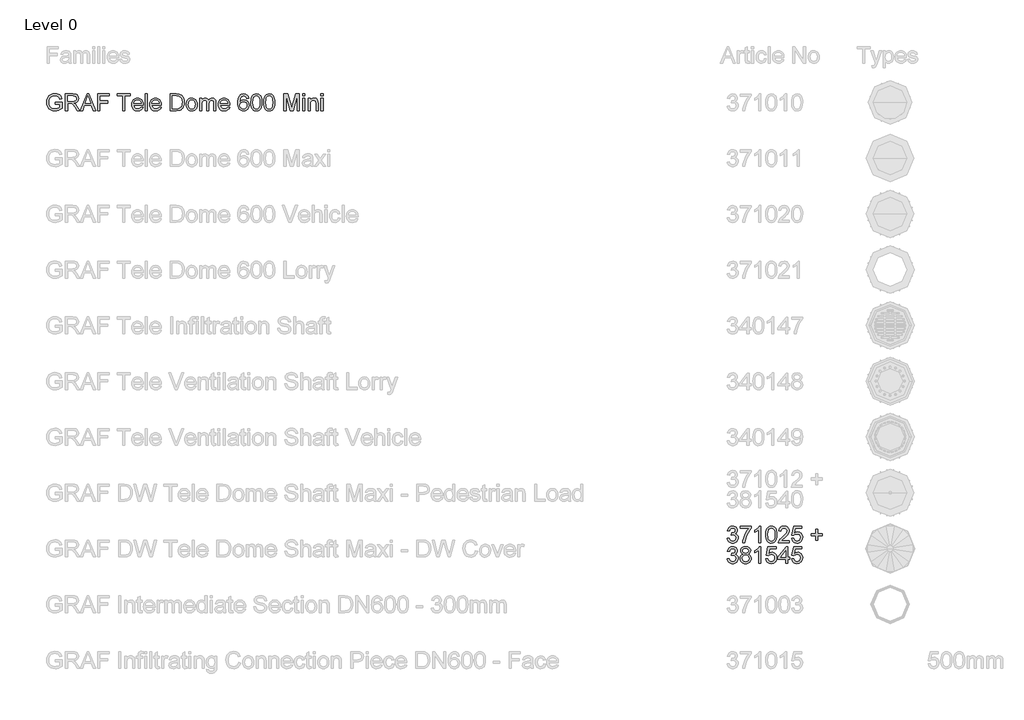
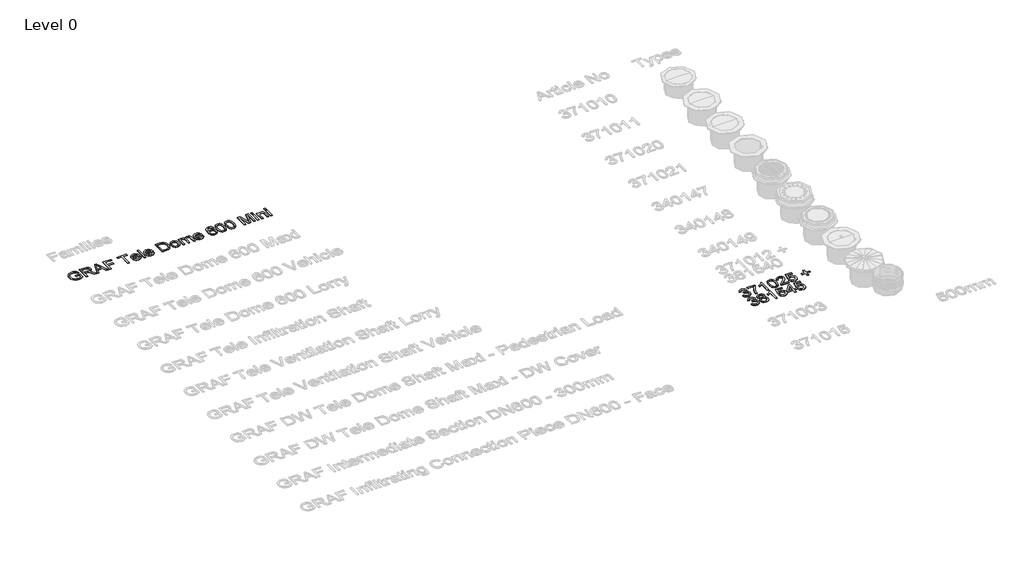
# One storey, part 22 of 25: 2 proxies.
"""IFC4 building model written with IfcOpenShell, lengths in millimetres."""

from ifc_helpers import new_model, si_unit, origin, origin_with_axes, place, context, project, spatial, polyline, outline, extrude, element, save

model = new_model("IFC4")

# Units and contexts
model_context = context("Model", 3, world=origin())
ifc_project = project(units=[si_unit("LENGTHUNIT", "METRE", prefix="MILLI")], contexts=[model_context])

# Site, building, storey
site = spatial("IfcSite", under=ifc_project)
building = spatial("IfcBuilding", under=site)
storey = spatial("IfcBuildingStorey", under=building, Name="Level 0", Elevation=0.0)

# Proxies
placement = place(None, origin())
element("IfcBuildingElementProxy", 1, Name="300mm Arial", ObjectType="300mm Arial", at=placement, inside=storey, context=model_context, shape_type="SweptSolid", body=[
    extrude(outline(polyline([(-15240.9940387, 7916.7454403), (-15240.9940387, 7954.4165566), (-15118.5629107, 7954.4165566), (-15118.5629107, 7841.7710897), (-15148.3153671, 7821.0777274), (-15179.0059225, 7806.2336889), (-15210.5610007, 7797.2941564), (-15242.9070251, 7794.3143123), (-15285.1674693, 7799.050793), (-15323.3628175, 7813.260235), (-15355.0926395, 7836.4459978), (-15377.9565055, 7868.1114405), (-15391.7796715, 7906.0952565), (-15396.3873935, 7948.2361391), (-15391.7980656, 7990.6805243), (-15378.0300819, 8030.1634594), (-15355.6536596, 8063.282036), (-15325.2390156, 8086.6333457), (-15288.1932987, 8100.4841028), (-15245.9236575, 8105.1010218), (-15214.8928112, 8102.4246803), (-15186.9889618, 8094.3956557), (-15163.4904994, 8081.5933623), (-15145.6758138, 8064.5972141), (-15132.4964413, 8042.5886738), (-15122.9039183, 8014.7492038), (-15157.6319786, 8004.9635427), (-15165.3850917, 8024.8199734), (-15174.8120678, 8039.8019677), (-15187.2832674, 8051.0959449), (-15204.169051, 8059.8883246), (-15224.3013932, 8065.5445103), (-15246.5122687, 8067.4299055), (-15272.5123287, 8065.3973575), (-15294.7415982, 8059.2997134), (-15313.1173039, 8049.9003284), (-15327.5566722, 8037.9625577), (-15346.9440533, 8008.9366683), (-15355.7732212, 7980.49939), (-15358.7162772, 7949.7812434), (-15355.175413, 7913.7563991), (-15344.5528204, 7884.1143073), (-15327.1703961, 7861.0665003), (-15303.3500369, 7844.8245102), (-15275.4737787, 7835.195199), (-15245.9236575, 7831.9854286), (-15219.831627, 7834.4042527), (-15194.3833899, 7841.6607251), (-15172.2828791, 7851.6579183), (-15156.234027, 7862.298905), (-15156.234027, 7916.7454403), (-15240.9940387, 7916.7454403)])), origin_with_axes(), (0.0, 0.0, 1.0), 10.0),
    extrude(outline(polyline([(-15057.3473467, 7799.0232018), (-15057.3473467, 8100.3921323), (-14927.4850024, 8100.3921323), (-14892.5821982, 8098.3595842), (-14867.1891434, 8092.2619402), (-14848.6294968, 8081.0047511), (-14834.2269167, 8063.4935682), (-14824.9838815, 8041.7793334), (-14821.9028698, 8017.912989), (-14827.0072325, 7988.2249119), (-14842.3203206, 7963.6136065), (-14853.9200997, 7953.5842236), (-14868.3019865, 7945.5689946), (-14905.4120827, 7935.5809984), (-14884.0013506, 7919.467767), (-14853.467145, 7880.6930048), (-14803.2144645, 7799.0232018), (-14846.9924219, 7799.0232018), (-14886.2086426, 7861.4895646), (-14914.5355562, 7902.8395009), (-14934.4379722, 7922.3740348), (-14952.3538253, 7929.5477337), (-14974.2060158, 7930.8721089), (-15019.6762304, 7930.8721089), (-15019.6762304, 7799.0232018), (-15057.3473467, 7799.0232018)]), holes=[polyline([(-15019.6762304, 7968.5432252), (-14935.3576771, 7968.5432252), (-14911.1418448, 7969.8767974), (-14892.3522719, 7973.8775141), (-14878.2072092, 7980.8120897), (-14867.9249074, 7990.9472387), (-14861.6617165, 8003.2069062), (-14859.5739861, 8016.5150374), (-14863.5563087, 8034.890743), (-14875.5032765, 8049.6979933), (-14896.058683, 8059.4652603), (-14925.8663217, 8062.721016), (-15019.6762304, 8062.721016), (-15019.6762304, 7968.5432252)])]), origin_with_axes(), (0.0, 0.0, 1.0), 10.0),
    extrude(outline(polyline([(-14791.0743586, 7799.0232018), (-14670.7769462, 8100.3921323), (-14638.6976362, 8100.3921323), (-14518.4002238, 7799.0232018), (-14558.2050557, 7799.0232018), (-14592.7123868, 7893.2009926), (-14716.835772, 7893.2009926), (-14751.2695268, 7799.0232018), (-14791.0743586, 7799.0232018)]), holes=[polyline([(-14703.003409, 7930.8721089), (-14606.4711735, 7930.8721089), (-14633.6208647, 8004.9635427), (-14654.7372912, 8062.721016), (-14673.499273, 8011.4382658), (-14703.003409, 7930.8721089)])]), origin_with_axes(), (0.0, 0.0, 1.0), 10.0),
    extrude(outline(polyline([(-14478.1539335, 7799.0232018), (-14478.1539335, 8100.3921323), (-14275.6716834, 8100.3921323), (-14275.6716834, 8062.721016), (-14440.4828172, 8062.721016), (-14440.4828172, 7973.2521147), (-14299.2161311, 7973.2521147), (-14299.2161311, 7935.5809984), (-14440.4828172, 7935.5809984), (-14440.4828172, 7799.0232018), (-14478.1539335, 7799.0232018)])), origin_with_axes(), (0.0, 0.0, 1.0), 10.0),
    extrude(outline(polyline([(-14030.8094274, 7799.0232018), (-14030.8094274, 8062.721016), (-14129.6961077, 8062.721016), (-14129.6961077, 8100.3921323), (-13894.2516308, 8100.3921323), (-13894.2516308, 8062.721016), (-13993.1383111, 8062.721016), (-13993.1383111, 7799.0232018), (-14030.8094274, 7799.0232018)])), origin_with_axes(), (0.0, 0.0, 1.0), 10.0),
    extrude(outline(polyline([(-13701.6286181, 7864.9476554), (-13664.6932658, 7860.2387658), (-13678.001397, 7832.4084929), (-13699.2373851, 7811.6047661), (-13727.9229837, 7798.6369257), (-13763.5799461, 7794.3143123), (-13786.9542484, 7796.1790141), (-13807.7809678, 7801.7731197), (-13826.0601045, 7811.0966291), (-13841.7916583, 7824.1495421), (-13854.4422004, 7840.5685754), (-13863.4783019, 7859.9904455), (-13868.8999628, 7882.4151523), (-13870.7071831, 7907.842696), (-13868.8815687, 7934.1324631), (-13863.4047255, 7957.3044302), (-13854.2766535, 7977.3585975), (-13841.4973527, 7994.2949649), (-13825.8071856, 8007.7502488), (-13807.9465147, 8017.361166), (-13787.9153401, 8023.1277162), (-13765.7136617, 8025.0498997), (-13744.2270539, 8023.1323148), (-13724.7959868, 8017.3795601), (-13707.4204603, 8007.7916356), (-13692.1004744, 7994.3685413), (-13679.5947859, 7977.4689621), (-13670.6621512, 7957.451583), (-13665.3025704, 7934.3164041), (-13663.5160434, 7908.0634252), (-13663.7367726, 7897.9098821), (-13833.0360668, 7897.9098821), (-13826.5153584, 7869.7117272), (-13811.3678173, 7848.9815768), (-13789.5064297, 7836.2344656), (-13762.8441821, 7831.9854286), (-13742.7946134, 7833.9535973), (-13725.9088298, 7839.8581033), (-13712.1868314, 7850.0668287), (-13701.6286181, 7864.9476554)]), holes=[polyline([(-13833.0360668, 7935.5809984), (-13701.1871597, 7935.5809984), (-13706.2823254, 7955.4834144), (-13716.2703215, 7969.7204476), (-13738.2328766, 7982.9641994), (-13765.8608145, 7987.3787834), (-13791.2538692, 7983.8563132), (-13812.2507341, 7973.2889029), (-13826.8464522, 7956.8169866), (-13833.0360668, 7935.5809984)])]), origin_with_axes(), (0.0, 0.0, 1.0), 10.0),
    extrude(outline(polyline([(-13625.8449271, 7799.0232018), (-13625.8449271, 8100.3921323), (-13588.1738108, 8100.3921323), (-13588.1738108, 7799.0232018), (-13625.8449271, 7799.0232018)])), origin_with_axes(), (0.0, 0.0, 1.0), 10.0),
    extrude(outline(polyline([(-13376.71524, 7864.9476554), (-13339.7798877, 7860.2387658), (-13353.0880188, 7832.4084929), (-13374.324007, 7811.6047661), (-13403.0096056, 7798.6369257), (-13438.666568, 7794.3143123), (-13462.0408702, 7796.1790141), (-13482.8675897, 7801.7731197), (-13501.1467263, 7811.0966291), (-13516.8782801, 7824.1495421), (-13529.5288222, 7840.5685754), (-13538.5649238, 7859.9904455), (-13543.9865847, 7882.4151523), (-13545.793805, 7907.842696), (-13543.9681906, 7934.1324631), (-13538.4913474, 7957.3044302), (-13529.3632754, 7977.3585975), (-13516.5839745, 7994.2949649), (-13500.8938074, 8007.7502488), (-13483.0331366, 8017.361166), (-13463.0019619, 8023.1277162), (-13440.8002835, 8025.0498997), (-13419.3136758, 8023.1323148), (-13399.8826086, 8017.3795601), (-13382.5070821, 8007.7916356), (-13367.1870963, 7994.3685413), (-13354.6814077, 7977.4689621), (-13345.748773, 7957.451583), (-13340.3891922, 7934.3164041), (-13338.6026653, 7908.0634252), (-13338.8233945, 7897.9098821), (-13508.1226887, 7897.9098821), (-13501.6019803, 7869.7117272), (-13486.4544391, 7848.9815768), (-13464.5930516, 7836.2344656), (-13437.930804, 7831.9854286), (-13417.8812352, 7833.9535973), (-13400.9954517, 7839.8581033), (-13387.2734532, 7850.0668287), (-13376.71524, 7864.9476554)]), holes=[polyline([(-13508.1226887, 7935.5809984), (-13376.2737816, 7935.5809984), (-13381.3689472, 7955.4834144), (-13391.3569434, 7969.7204476), (-13413.3194985, 7982.9641994), (-13440.9474363, 7987.3787834), (-13466.3404911, 7983.8563132), (-13487.3373559, 7973.2889029), (-13501.9330741, 7956.8169866), (-13508.1226887, 7935.5809984)])]), origin_with_axes(), (0.0, 0.0, 1.0), 10.0),
    extrude(outline(polyline([(-13178.500421, 7799.0232018), (-13178.500421, 8100.3921323), (-13074.5369691, 8100.3921323), (-13020.7526214, 8096.0511247), (-12996.7299272, 8087.6818093), (-12976.4596292, 8074.4932398), (-12955.6191142, 8051.5374033), (-12940.7750757, 8022.9897605), (-12931.8907255, 7989.4021343), (-12928.9292754, 7951.3263478), (-12930.9342323, 7918.9803234), (-12936.9491029, 7890.515454), (-12946.1093646, 7866.2812276), (-12957.5504947, 7846.627132), (-12970.7206701, 7831.1117089), (-12985.0680679, 7819.2934998), (-13001.5399842, 7810.5287112), (-13021.0837152, 7804.1735498), (-13069.533774, 7799.0232018), (-13178.500421, 7799.0232018)]), holes=[polyline([(-13140.8293047, 7836.6943181), (-13074.1690871, 7836.6943181), (-13046.5963316, 7838.0554815), (-13025.6822402, 7842.1389717), (-13009.9001026, 7848.7056653), (-12997.7232085, 7857.5164391), (-12984.6358066, 7873.8228085), (-12974.8041602, 7894.930038), (-12968.6513339, 7920.930098), (-12966.6003918, 7951.914959), (-12970.6195026, 7992.9705897), (-12982.6768349, 8023.2840661), (-13000.4915206, 8044.106187), (-13021.782691, 8056.6877512), (-13043.4509405, 8061.2126998), (-13075.1991567, 8062.721016), (-13140.8293047, 8062.721016), (-13140.8293047, 7836.6943181)])]), origin_with_axes(), (0.0, 0.0, 1.0), 10.0),
    extrude(outline(polyline([(-12891.2581591, 7909.682106), (-12889.2210126, 7938.3447119), (-12883.1095729, 7963.0433894), (-12872.9238402, 7983.7781383), (-12858.6638144, 8000.5489588), (-12844.3072195, 8011.2681204), (-12828.4607026, 8018.9246644), (-12811.1242635, 8023.5185909), (-12792.2979024, 8025.0498997), (-12771.514869, 8023.1851978), (-12752.7229968, 8017.5910922), (-12735.9222859, 8008.2675829), (-12721.1127364, 7995.2146698), (-12709.0255136, 7978.8738115), (-12700.391783, 7959.6864662), (-12695.2115447, 7937.6526339), (-12693.4847985, 7912.7723147), (-12696.5382191, 7874.7149223), (-12705.6984808, 7845.7442152), (-12720.6988691, 7824.0483745), (-12741.2726697, 7807.8155815), (-12765.7092312, 7797.6896296), (-12792.2979024, 7794.3143123), (-12813.3844386, 7796.1721164), (-12832.3510547, 7801.7455286), (-12849.1977508, 7811.034549), (-12863.9245269, 7824.0391775), (-12875.882991, 7840.538685), (-12884.4247511, 7860.3123422), (-12889.5498071, 7883.3601492), (-12891.2581591, 7909.682106)]), holes=[polyline([(-12853.5870428, 7909.7556824), (-12849.2276412, 7875.6622185), (-12836.1494363, 7851.3728097), (-12816.4677495, 7836.8322739), (-12792.2979024, 7831.9854286), (-12768.23842, 7836.859865), (-12748.5935214, 7851.4831743), (-12735.5153165, 7876.0944798), (-12731.1559148, 7910.9329048), (-12735.5429076, 7944.0330873), (-12748.703886, 7967.9914022), (-12768.3763757, 7982.5319381), (-12792.2979024, 7987.3787834), (-12816.4677495, 7982.5503322), (-12836.1494363, 7968.0649786), (-12849.2276412, 7943.8307522), (-12853.5870428, 7909.7556824)])]), origin_with_axes(), (0.0, 0.0, 1.0), 10.0),
    extrude(outline(polyline([(-12651.1047927, 7799.0232018), (-12651.1047927, 8020.3410101), (-12613.4336764, 8020.3410101), (-12613.4336764, 7983.9206926), (-12602.1029109, 8000.6501263), (-12587.5347839, 8013.7559224), (-12570.2259361, 8022.2264053), (-12550.673008, 8025.0498997), (-12529.7221284, 8022.171223), (-12512.9283153, 8013.5351932), (-12500.3835393, 7999.7120272), (-12492.1797708, 7981.2719422), (-12478.4485753, 8000.4247986), (-12462.7859994, 8014.1054103), (-12445.1920429, 8022.3137773), (-12425.666706, 8025.0498997), (-12397.3489895, 8020.49736), (-12376.4073069, 8006.8397409), (-12363.4670577, 7983.7091605), (-12359.1536413, 7950.7377366), (-12359.1536413, 7799.0232018), (-12396.8247576, 7799.0232018), (-12396.8247576, 7934.5509288), (-12400.3196366, 7966.0048394), (-12405.2308612, 7974.6776575), (-12412.9747772, 7981.4926714), (-12422.9351822, 7985.9072554), (-12434.4958739, 7987.3787834), (-12454.9041276, 7983.6079929), (-12471.5415908, 7972.2956216), (-12482.6056419, 7952.6691171), (-12486.2936589, 7923.9559274), (-12486.2936589, 7799.0232018), (-12523.9647752, 7799.0232018), (-12523.9647752, 7938.7447836), (-12526.144476, 7960.0451511), (-12532.6835784, 7975.2386775), (-12544.1890878, 7984.3437569), (-12561.2680095, 7987.3787834), (-12575.7809542, 7985.3554324), (-12589.1534647, 7979.2853795), (-12600.1899246, 7969.3157774), (-12607.6947173, 7955.593779), (-12611.9989366, 7936.5558857), (-12613.4336764, 7910.6385992), (-12613.4336764, 7799.0232018), (-12651.1047927, 7799.0232018)])), origin_with_axes(), (0.0, 0.0, 1.0), 10.0),
    extrude(outline(polyline([(-12147.6950705, 7864.9476554), (-12110.7597182, 7860.2387658), (-12124.0678494, 7832.4084929), (-12145.3038375, 7811.6047661), (-12173.9894361, 7798.6369257), (-12209.6463985, 7794.3143123), (-12233.0207007, 7796.1790141), (-12253.8474202, 7801.7731197), (-12272.1265568, 7811.0966291), (-12287.8581107, 7824.1495421), (-12300.5086528, 7840.5685754), (-12309.5447543, 7859.9904455), (-12314.9664152, 7882.4151523), (-12316.7736355, 7907.842696), (-12314.9480211, 7934.1324631), (-12309.4711779, 7957.3044302), (-12300.3431059, 7977.3585975), (-12287.5638051, 7994.2949649), (-12271.873638, 8007.7502488), (-12254.0129671, 8017.361166), (-12233.9817925, 8023.1277162), (-12211.7801141, 8025.0498997), (-12190.2935063, 8023.1323148), (-12170.8624391, 8017.3795601), (-12153.4869127, 8007.7916356), (-12138.1669268, 7994.3685413), (-12125.6612382, 7977.4689621), (-12116.7286035, 7957.451583), (-12111.3690227, 7934.3164041), (-12109.5824958, 7908.0634252), (-12109.803225, 7897.9098821), (-12279.1025192, 7897.9098821), (-12272.5818108, 7869.7117272), (-12257.4342697, 7848.9815768), (-12235.5728821, 7836.2344656), (-12208.9106345, 7831.9854286), (-12188.8610658, 7833.9535973), (-12171.9752822, 7839.8581033), (-12158.2532838, 7850.0668287), (-12147.6950705, 7864.9476554)]), holes=[polyline([(-12279.1025192, 7935.5809984), (-12147.2536121, 7935.5809984), (-12152.3487777, 7955.4834144), (-12162.3367739, 7969.7204476), (-12184.299329, 7982.9641994), (-12211.9272668, 7987.3787834), (-12237.3203216, 7983.8563132), (-12258.3171864, 7973.2889029), (-12272.9129046, 7956.8169866), (-12279.1025192, 7935.5809984)])]), origin_with_axes(), (0.0, 0.0, 1.0), 10.0),
    extrude(outline(polyline([(-11770.542449, 8020.3410101), (-11808.2135653, 8015.6321206), (-11814.2836183, 8034.3021318), (-11822.4873868, 8047.049243), (-11839.5755054, 8058.8030727), (-11860.2320795, 8062.721016), (-11877.7432624, 8060.4401476), (-11894.2243758, 8053.5975425), (-11908.3786356, 8039.1857653), (-11919.9393273, 8019.3477287), (-11927.7476226, 7991.2875296), (-11930.6446933, 7952.2092646), (-11915.5339404, 7969.8400092), (-11897.4249492, 7982.2652236), (-11877.3293952, 7989.6320606), (-11856.2589539, 7992.0876729), (-11838.1591597, 7990.4092113), (-11821.4573172, 7985.3738265), (-11806.1534262, 7976.9815185), (-11792.2474868, 7965.2322872), (-11780.6913936, 7950.8251086), (-11772.4370413, 7934.4589583), (-11767.48443, 7916.1338365), (-11765.8335595, 7895.849743), (-11768.9421624, 7868.8747957), (-11778.2679709, 7843.868017), (-11793.038433, 7822.65962), (-11812.4809965, 7807.0798175), (-11835.7127445, 7797.5056886), (-11861.8507602, 7794.3143123), (-11884.3076568, 7796.4296338), (-11904.589451, 7802.7755982), (-11922.696143, 7813.3522055), (-11938.6277326, 7828.1594558), (-11951.6162663, 7847.8227485), (-11960.8937904, 7872.9674829), (-11966.4603048, 7903.593659), (-11968.3158096, 7939.7012768), (-11966.2556705, 7980.1820918), (-11960.075253, 8014.7308097), (-11949.7745571, 8043.3474304), (-11935.3535829, 8066.0319539), (-11919.7231966, 8081.0645319), (-11901.6004098, 8091.8020877), (-11880.9852225, 8098.2446211), (-11857.8776347, 8100.3921323), (-11824.8234374, 8095.0762374), (-11798.3543279, 8079.1285529), (-11779.8130753, 8053.7998776), (-11770.542449, 8020.3410101)]), holes=[polyline([(-11930.6446933, 7896.4383541), (-11928.4649925, 7879.7457086), (-11921.9258901, 7863.8072212), (-11911.772347, 7850.1036169), (-11898.7493244, 7840.1156207), (-11883.0315661, 7834.0179766), (-11864.7938162, 7831.9854286), (-11839.9341904, 7836.1976774), (-11820.3904594, 7848.834424), (-11807.7261217, 7868.7000517), (-11803.5046758, 7894.5989442), (-11807.6709394, 7919.45857), (-11820.1697302, 7938.4136898), (-11840.044555, 7950.4158399), (-11866.3389206, 7954.4165566), (-11891.1617582, 7950.4158399), (-11911.9194998, 7938.4136898), (-11925.9633949, 7919.9184225), (-11930.6446933, 7896.4383541)])]), origin_with_axes(), (0.0, 0.0, 1.0), 10.0),
    extrude(outline(polyline([(-11732.8713327, 7947.2796459), (-11730.1030207, 7995.5181725), (-11721.7980847, 8033.9894321), (-11708.0392981, 8063.282036), (-11688.9094343, 8083.9845953), (-11664.2705377, 8096.290248), (-11633.9846524, 8100.3921323), (-11610.7712985, 8097.9641111), (-11589.9859658, 8090.6800476), (-11572.6035415, 8078.8250503), (-11559.598913, 8062.6842278), (-11549.7764637, 8042.3955357), (-11541.9405772, 8018.0969299), (-11536.8086234, 7987.2408276), (-11535.0979721, 7947.2796459), (-11537.838693, 7899.3170308), (-11546.0608556, 7860.9377416), (-11559.7368687, 7831.6175466), (-11578.8391413, 7810.8322139), (-11603.5332203, 7798.4437877), (-11633.9846524, 7794.3143123), (-11654.733197, 7796.107737), (-11673.1272967, 7801.4880112), (-11689.1669517, 7810.4551348), (-11702.8521619, 7823.0091079), (-11715.9855492, 7845.7028285), (-11725.36654, 7873.9791583), (-11730.9951346, 7907.8380975), (-11732.8713327, 7947.2796459)]), holes=[polyline([(-11695.2002164, 7947.3532223), (-11690.7856325, 7888.0966299), (-11685.2674026, 7867.8286312), (-11677.5418807, 7853.8008309), (-11657.8234057, 7837.4392792), (-11633.9846524, 7831.9854286), (-11610.1458991, 7837.4576733), (-11590.4274242, 7853.8744073), (-11582.7019023, 7867.9252003), (-11577.1836724, 7888.1886004), (-11572.7690884, 7947.3532223), (-11577.0365196, 8005.2762424), (-11582.3708085, 8025.4775625), (-11589.838813, 8039.8387559), (-11609.5204997, 8057.0004509), (-11634.4261108, 8062.721016), (-11658.0073467, 8057.6810326), (-11676.9532695, 8042.5610826), (-11684.9363088, 8026.9260978), (-11690.6384797, 8005.8464595), (-11695.2002164, 7947.3532223)])]), origin_with_axes(), (0.0, 0.0, 1.0), 10.0),
    extrude(outline(polyline([(-11502.1357454, 7947.2796459), (-11499.3674333, 7995.5181725), (-11491.0624973, 8033.9894321), (-11477.3037107, 8063.282036), (-11458.1738469, 8083.9845953), (-11433.5349503, 8096.290248), (-11403.2490651, 8100.3921323), (-11380.0357112, 8097.9641111), (-11359.2503784, 8090.6800476), (-11341.8679542, 8078.8250503), (-11328.8633256, 8062.6842278), (-11319.0408764, 8042.3955357), (-11311.2049899, 8018.0969299), (-11306.073036, 7987.2408276), (-11304.3623847, 7947.2796459), (-11307.1031056, 7899.3170308), (-11315.3252682, 7860.9377416), (-11329.0012814, 7831.6175466), (-11348.103554, 7810.8322139), (-11372.7976329, 7798.4437877), (-11403.2490651, 7794.3143123), (-11423.9976096, 7796.107737), (-11442.3917093, 7801.4880112), (-11458.4313643, 7810.4551348), (-11472.1165745, 7823.0091079), (-11485.2499618, 7845.7028285), (-11494.6309527, 7873.9791583), (-11500.2595472, 7907.8380975), (-11502.1357454, 7947.2796459)]), holes=[polyline([(-11464.464629, 7947.3532223), (-11460.0500451, 7888.0966299), (-11454.5318152, 7867.8286312), (-11446.8062933, 7853.8008309), (-11427.0878183, 7837.4392792), (-11403.2490651, 7831.9854286), (-11379.4103118, 7837.4576733), (-11359.6918368, 7853.8744073), (-11351.9663149, 7867.9252003), (-11346.448085, 7888.1886004), (-11342.0335011, 7947.3532223), (-11346.3009322, 8005.2762424), (-11351.6352211, 8025.4775625), (-11359.1032256, 8039.8387559), (-11378.7849124, 8057.0004509), (-11403.6905234, 8062.721016), (-11427.2717593, 8057.6810326), (-11446.2176821, 8042.5610826), (-11454.2007214, 8026.9260978), (-11459.9028923, 8005.8464595), (-11464.464629, 7947.3532223)])]), origin_with_axes(), (0.0, 0.0, 1.0), 10.0),
    extrude(outline(polyline([(-11139.5512509, 7799.0232018), (-11139.5512509, 8100.3921323), (-11074.7304434, 8100.3921323), (-11013.073421, 7887.9770683), (-11000.6390095, 7843.6104996), (-10987.1745285, 7891.6558882), (-10926.5475757, 8100.3921323), (-10861.7267682, 8100.3921323), (-10861.7267682, 7799.0232018), (-10899.3978845, 7799.0232018), (-10899.3978845, 8062.721016), (-10975.1079991, 7799.0232018), (-11026.17002, 7799.0232018), (-11101.8801346, 8062.721016), (-11101.8801346, 7799.0232018), (-11139.5512509, 7799.0232018)])), origin_with_axes(), (0.0, 0.0, 1.0), 10.0),
    extrude(outline(polyline([(-10800.5112042, 8062.721016), (-10800.5112042, 8100.3921323), (-10762.8400878, 8100.3921323), (-10762.8400878, 8062.721016), (-10800.5112042, 8062.721016)])), origin_with_axes(), (0.0, 0.0, 1.0), 10.0),
    extrude(outline(polyline([(-10800.5112042, 7799.0232018), (-10800.5112042, 8020.3410101), (-10762.8400878, 8020.3410101), (-10762.8400878, 7799.0232018), (-10800.5112042, 7799.0232018)])), origin_with_axes(), (0.0, 0.0, 1.0), 10.0),
    extrude(outline(polyline([(-10706.3334134, 7799.0232018), (-10706.3334134, 8020.3410101), (-10668.6622971, 8020.3410101), (-10668.6622971, 7989.4389225), (-10655.5748951, 8005.018725), (-10639.8571369, 8016.1471554), (-10621.5090224, 8022.8242136), (-10600.5305516, 8025.0498997), (-10581.9617079, 8023.2564749), (-10564.9563626, 8017.8762008), (-10550.7745117, 8009.5804618), (-10540.676151, 7999.0406426), (-10529.3821737, 7971.3391284), (-10527.3956109, 7934.9188108), (-10527.3956109, 7799.0232018), (-10565.0667272, 7799.0232018), (-10565.0667272, 7929.8420393), (-10569.4077348, 7963.1721481), (-10575.4134084, 7973.0957649), (-10584.748414, 7980.7936956), (-10596.7137759, 7985.7325114), (-10610.6105182, 7987.3787834), (-10632.6742409, 7983.6815693), (-10651.4822079, 7972.5899271), (-10658.9984969, 7963.5354315), (-10664.3672748, 7951.1608009), (-10668.6622971, 7916.4511347), (-10668.6622971, 7799.0232018), (-10706.3334134, 7799.0232018)])), origin_with_axes(), (0.0, 0.0, 1.0), 10.0),
    extrude(outline(polyline([(-10475.597826, 8062.721016), (-10475.597826, 8100.3921323), (-10437.9267097, 8100.3921323), (-10437.9267097, 8062.721016), (-10475.597826, 8062.721016)])), origin_with_axes(), (0.0, 0.0, 1.0), 10.0),
    extrude(outline(polyline([(-10475.597826, 7799.0232018), (-10475.597826, 8020.3410101), (-10437.9267097, 8020.3410101), (-10437.9267097, 7799.0232018), (-10475.597826, 7799.0232018)])), origin_with_axes(), (0.0, 0.0, 1.0), 10.0),
])
element("IfcBuildingElementProxy", 2, Name="300mm Arial", ObjectType="300mm Arial", at=placement, inside=storey, context=model_context, shape_type="SweptSolid", body=[
    extrude(outline(polyline([(-3192.0538732, 129.074324), (-3154.3827568, 133.7832135), (-3145.9490621, 110.1100071), (-3133.5974241, 94.1255344), (-3116.7208376, 85.020455), (-3094.7122972, 81.9854286), (-3068.8869812, 86.1608892), (-3048.947777, 98.6872712), (-3036.2006659, 117.3756765), (-3031.9516289, 140.0372074), (-3036.1638777, 161.5491071), (-3048.8006242, 178.9959107), (-3067.930488, 190.5566024), (-3091.6220885, 194.4101663), (-3118.0360157, 190.289888), (-3113.842161, 227.9610043), (-3107.8088963, 227.5195459), (-3085.2393359, 230.2234785), (-3065.0610084, 238.3352765), (-3050.8239752, 252.057275), (-3046.0782975, 271.5918089), (-3049.5179941, 287.8613901), (-3059.8370841, 301.0591567), (-3075.5824335, 309.8055512), (-3095.3009084, 312.721016), (-3115.0561716, 309.77796), (-3131.2061912, 300.9487921), (-3142.9968091, 286.2335123), (-3149.6738673, 265.6321206), (-3187.3449836, 270.3410101), (-3176.2533415, 304.1677596), (-3156.5164724, 329.4228585), (-3129.513934, 345.1498138), (-3096.6252836, 350.3921323), (-3072.9428802, 347.8077613), (-3051.1918572, 340.0546482), (-3032.8529397, 327.8225719), (-3019.4068528, 311.801311), (-3011.1570991, 293.3428319), (-3008.4071812, 273.7991009), (-3011.0191433, 255.5889421), (-3018.8550298, 239.0710405), (-3031.8044761, 224.9995542), (-3049.7571174, 214.1286413), (-3026.1758815, 204.6004976), (-3008.7014868, 188.3769016), (-2997.8857561, 166.3407701), (-2994.2805125, 139.3750198), (-2996.0831343, 120.2635502), (-3001.4909997, 102.6603967), (-3010.5041085, 86.5655594), (-3023.122461, 71.9790383), (-3038.4953298, 59.8757207), (-3055.771988, 51.2304938), (-3074.9524356, 46.0433577), (-3096.0366724, 44.3143123), (-3115.0929598, 45.7904388), (-3132.4569899, 50.2188183), (-3148.1287629, 57.5994508), (-3162.1082787, 67.9323364), (-3173.8299188, 80.6104696), (-3182.7280646, 95.0268453), (-3188.802716, 111.1814634), (-3192.0538732, 129.074324)])), origin_with_axes(), (0.0, 0.0, 1.0), 10.0),
    extrude(outline(polyline([(-2961.3182858, 308.0121264), (-2961.3182858, 345.6832427), (-2763.5449252, 345.6832427), (-2763.5449252, 315.2226135), (-2791.7338831, 279.547257), (-2819.6469294, 234.17821), (-2844.267432, 183.2541448), (-2862.5787583, 130.9137339), (-2871.555079, 91.7526956), (-2876.5582741, 49.0232018), (-2914.2293904, 49.0232018), (-2910.1550973, 87.8531464), (-2899.2565932, 134.0039427), (-2881.8281837, 182.923051), (-2858.1641743, 230.0579316), (-2830.5362365, 272.6678637), (-2801.2160415, 308.0121264), (-2961.3182858, 308.0121264)])), origin_with_axes(), (0.0, 0.0, 1.0), 10.0),
    extrude(outline(polyline([(-2589.3160123, 49.0232018), (-2626.9871286, 49.0232018), (-2626.9871286, 283.8790675), (-2662.6716821, 258.4584217), (-2702.3293612, 239.4389225), (-2702.3293612, 275.0498997), (-2672.7424517, 291.1447369), (-2647.1102737, 310.2929948), (-2626.9043551, 330.6552632), (-2613.5962239, 350.3921323), (-2589.3160123, 350.3921323), (-2589.3160123, 49.0232018)])), origin_with_axes(), (0.0, 0.0, 1.0), 10.0),
    extrude(outline(polyline([(-2499.847111, 197.2796459), (-2497.078799, 245.5181725), (-2488.773863, 283.9894321), (-2475.0150764, 313.282036), (-2455.8852126, 333.9845953), (-2431.246316, 346.290248), (-2400.9604307, 350.3921323), (-2377.7470768, 347.9641111), (-2356.9617441, 340.6800476), (-2339.5793198, 328.8250503), (-2326.5746913, 312.6842278), (-2316.752242, 292.3955357), (-2308.9163555, 268.0969299), (-2303.7844017, 237.2408276), (-2302.0737504, 197.2796459), (-2304.8144713, 149.3170308), (-2313.0366339, 110.9377416), (-2326.7126471, 81.6175466), (-2345.8149197, 60.8322139), (-2370.5089986, 48.4437877), (-2400.9604307, 44.3143123), (-2421.7089753, 46.107737), (-2440.103075, 51.4880112), (-2456.14273, 60.4551348), (-2469.8279402, 73.0091079), (-2482.9613275, 95.7028285), (-2492.3423183, 123.9791583), (-2497.9709129, 157.8380975), (-2499.847111, 197.2796459)]), holes=[polyline([(-2462.1759947, 197.3532223), (-2457.7614108, 138.0966299), (-2452.2431809, 117.8286312), (-2444.517659, 103.8008309), (-2424.799184, 87.4392792), (-2400.9604307, 81.9854286), (-2377.1216774, 87.4576733), (-2357.4032025, 103.8744073), (-2349.6776806, 117.9252003), (-2344.1594507, 138.1886004), (-2339.7448667, 197.3532223), (-2344.0122979, 255.2762424), (-2349.3465868, 275.4775625), (-2356.8145913, 289.8387559), (-2376.496278, 307.0004509), (-2401.4018891, 312.721016), (-2424.983125, 307.6810326), (-2443.9290478, 292.5610826), (-2451.9120871, 276.9260978), (-2457.614258, 255.8464595), (-2462.1759947, 197.3532223)])]), origin_with_axes(), (0.0, 0.0, 1.0), 10.0),
    extrude(outline(polyline([(-2076.0470526, 86.6943181), (-2076.0470526, 49.0232018), (-2273.8204132, 49.0232018), (-2269.7737112, 74.9956707), (-2260.4846909, 95.2935598), (-2246.8914511, 114.9844436), (-2227.2281585, 135.5950323), (-2199.7289794, 158.6520364), (-2159.0780189, 194.7596542), (-2134.6874426, 221.4127048), (-2122.4921545, 243.0441661), (-2118.4270584, 264.0870162), (-2122.2622282, 282.9501655), (-2133.7677376, 298.6311355), (-2151.4536645, 309.1985459), (-2173.8300869, 312.721016), (-2197.3285493, 309.2813193), (-2215.5846934, 298.9622293), (-2227.3661143, 282.5730865), (-2231.4404073, 260.923231), (-2269.1115237, 265.6321206), (-2259.9788531, 302.0708322), (-2251.4324945, 316.6067695), (-2240.232787, 328.6870946), (-2226.6372481, 338.1830486), (-2210.903395, 344.9658728), (-2173.0207465, 350.3921323), (-2152.8309228, 348.8838161), (-2134.8621866, 344.3588675), (-2119.1145379, 336.8172866), (-2105.5879768, 326.2590734), (-2094.7239616, 313.465977), (-2086.9639508, 299.2197467), (-2082.3079443, 283.5203826), (-2080.7559421, 266.3678846), (-2082.4298052, 248.3508639), (-2087.4513944, 230.6465428), (-2096.3633358, 212.6387192), (-2109.7082551, 193.7111905), (-2130.9810315, 171.114039), (-2163.6765438, 142.0973466), (-2207.0130429, 105.8609701), (-2224.009191, 86.6943181), (-2076.0470526, 86.6943181)])), origin_with_axes(), (0.0, 0.0, 1.0), 10.0),
    extrude(outline(polyline([(-2038.3759363, 129.074324), (-2000.70482, 133.7832135), (-1993.7886385, 111.1676679), (-1981.722109, 94.971663), (-1964.5604139, 85.2319872), (-1942.3587355, 81.9854286), (-1915.3561971, 86.5011801), (-1895.1226874, 100.0484346), (-1882.4859408, 121.0636935), (-1878.273692, 147.9834585), (-1882.2192264, 173.330528), (-1894.0558296, 192.7179091), (-1913.8754721, 205.0235619), (-1941.7701243, 209.1254461), (-1960.0446625, 207.4883712), (-1974.8427157, 202.5771466), (-1995.9959304, 185.5809984), (-2033.6670467, 190.289888), (-2000.70482, 345.6832427), (-1854.7292443, 345.6832427), (-1854.7292443, 308.0121264), (-1970.2441908, 308.0121264), (-1986.3574222, 225.0179483), (-1959.4468542, 241.3519089), (-1931.2486993, 246.7965624), (-1912.902884, 245.1089038), (-1896.0515894, 240.0459278), (-1880.6948154, 231.6076346), (-1866.8325619, 219.794024), (-1855.3569429, 205.3270645), (-1847.1600722, 188.9287246), (-1842.2419498, 170.5990042), (-1840.6025757, 150.3379033), (-1846.5070817, 112.666787), (-1853.8877142, 95.8729739), (-1864.2205998, 80.4403242), (-1879.8739787, 64.635194), (-1898.1393197, 53.3458153), (-1919.0166229, 46.572188), (-1942.5058883, 44.3143123), (-1979.50562, 50.1176508), (-1995.1842908, 57.3718238), (-2008.9821649, 67.5276662), (-2020.4623824, 80.07934), (-2029.1880835, 94.5210076), (-2038.3759363, 129.074324)])), origin_with_axes(), (0.0, 0.0, 1.0), 10.0),
    extrude(outline(polyline([(-1605.1580988, 96.1120972), (-1605.1580988, 176.1632194), (-1685.2092209, 176.1632194), (-1685.2092209, 213.8343357), (-1605.1580988, 213.8343357), (-1605.1580988, 293.8854578), (-1567.4869825, 293.8854578), (-1567.4869825, 213.8343357), (-1487.4358603, 213.8343357), (-1487.4358603, 176.1632194), (-1567.4869825, 176.1632194), (-1567.4869825, 96.1120972), (-1605.1580988, 96.1120972)])), origin_with_axes(), (0.0, 0.0, 1.0), 10.0),
    extrude(outline(polyline([(-3192.0538732, -236.8501296), (-3154.3827568, -232.14124), (-3145.9490621, -255.8144464), (-3133.5974241, -271.7989191), (-3116.7208376, -280.9039985), (-3094.7122972, -283.9390249), (-3068.8869812, -279.7635643), (-3048.947777, -267.2371824), (-3036.2006659, -248.548777), (-3031.9516289, -225.8872461), (-3036.1638777, -204.3753464), (-3048.8006242, -186.9285428), (-3067.930488, -175.3678511), (-3091.6220885, -171.5142872), (-3118.0360157, -175.6345656), (-3113.842161, -137.9634493), (-3107.8088963, -138.4049077), (-3085.2393359, -135.700975), (-3065.0610084, -127.589177), (-3050.8239752, -113.8671786), (-3046.0782975, -94.3326446), (-3049.5179941, -78.0630634), (-3059.8370841, -64.8652968), (-3075.5824335, -56.1189024), (-3095.3009084, -53.2034376), (-3115.0561716, -56.1464935), (-3131.2061912, -64.9756614), (-3142.9968091, -79.6909412), (-3149.6738673, -100.292333), (-3187.3449836, -95.5834434), (-3176.2533415, -61.756694), (-3156.5164724, -36.501595), (-3129.513934, -20.7746397), (-3096.6252836, -15.5323213), (-3072.9428802, -18.1166923), (-3051.1918572, -25.8698053), (-3032.8529397, -38.1018817), (-3019.4068528, -54.1231426), (-3011.1570991, -72.5816217), (-3008.4071812, -92.1253527), (-3011.0191433, -110.3355114), (-3018.8550298, -126.853413), (-3031.8044761, -140.9248993), (-3049.7571174, -151.7958123), (-3026.1758815, -161.323956), (-3008.7014868, -177.5475519), (-2997.8857561, -199.5836835), (-2994.2805125, -226.5494337), (-2996.0831343, -245.6609033), (-3001.4909997, -263.2640568), (-3010.5041085, -279.3588941), (-3023.122461, -293.9454152), (-3038.4953298, -306.0487329), (-3055.771988, -314.6939597), (-3074.9524356, -319.8810959), (-3096.0366724, -321.6101413), (-3115.0929598, -320.1340147), (-3132.4569899, -315.7056352), (-3148.1287629, -308.3250027), (-3162.1082787, -297.9921172), (-3173.8299188, -285.3139839), (-3182.7280646, -270.8976082), (-3188.802716, -254.7429901), (-3192.0538732, -236.8501296)])), origin_with_axes(), (0.0, 0.0, 1.0), 10.0),
    extrude(outline(polyline([(-2906.4302921, -150.9128955), (-2926.5994225, -140.9800816), (-2940.7536823, -127.5156006), (-2949.1138006, -110.7953639), (-2951.9005067, -91.0952831), (-2950.3829935, -75.7316113), (-2945.8304538, -61.6463294), (-2938.2428876, -48.8394374), (-2927.620295, -37.3109354), (-2914.4731122, -27.7827917), (-2899.3117755, -20.9769748), (-2862.9466403, -15.5323213), (-2826.3607758, -21.1057335), (-2811.0338922, -28.0724988), (-2797.6843743, -37.8259702), (-2786.8686437, -49.5797999), (-2779.1431218, -62.5476402), (-2774.5078086, -76.7294912), (-2772.9627043, -92.1253527), (-2775.7126222, -111.1908371), (-2783.9623759, -127.6259652), (-2797.803936, -141.0076728), (-2817.3292729, -150.9128955), (-2794.1435101, -162.8598633), (-2777.2669236, -180.4538197), (-2766.9754248, -202.8486362), (-2763.5449252, -229.1981841), (-2765.2463794, -247.987757), (-2770.3507421, -265.2138314), (-2778.8580132, -280.8764073), (-2790.7681928, -294.9754848), (-2805.4558815, -306.628147), (-2822.2956798, -314.9514771), (-2841.2875878, -319.9454752), (-2862.4316055, -321.6101413), (-2883.5756231, -319.9385774), (-2902.5675312, -314.923886), (-2919.4073295, -306.5660669), (-2934.0950181, -294.8651202), (-2946.0051977, -280.6671745), (-2954.5124689, -264.8183582), (-2959.6168316, -247.3186716), (-2961.3182858, -228.1681145), (-2957.7498304, -200.797694), (-2947.0444644, -178.2833159), (-2929.7540106, -161.3975324), (-2906.4302921, -150.9128955)]), holes=[polyline([(-2923.6471695, -226.8437393), (-2917.3563874, -255.2074411), (-2908.6467811, -267.3751381), (-2895.0995266, -276.4342322), (-2878.8759307, -282.0628268), (-2862.1372999, -283.9390249), (-2836.4959248, -279.9934905), (-2817.2556965, -268.1568874), (-2805.2259552, -250.2318371), (-2801.2160415, -228.0209617), (-2805.3547139, -205.4330072), (-2817.7707313, -187.1124838), (-2837.452418, -174.972378), (-2863.3880987, -170.925676), (-2888.6707888, -174.9171957), (-2907.7178791, -186.8917546), (-2919.6648469, -204.8627901), (-2923.6471695, -226.8437393)]), polyline([(-2914.2293904, -92.1989291), (-2910.8908613, -108.6432542), (-2900.875274, -121.7766415), (-2884.476934, -130.3850802), (-2861.9901471, -133.2545597), (-2840.027592, -130.4034743), (-2823.8775724, -121.8502179), (-2813.9447585, -109.158289), (-2810.6338206, -93.8911862), (-2814.0551231, -78.0446693), (-2824.3190308, -64.9388732), (-2840.6897796, -56.1372965), (-2862.4316055, -53.2034376), (-2884.3113871, -56.0729171), (-2900.6545448, -64.6813558), (-2910.835679, -77.2997083), (-2914.2293904, -92.1989291)])]), origin_with_axes(), (0.0, 0.0, 1.0), 10.0),
    extrude(outline(polyline([(-2589.3160123, -316.9012517), (-2626.9871286, -316.9012517), (-2626.9871286, -82.045386), (-2662.6716821, -107.4660319), (-2702.3293612, -126.485531), (-2702.3293612, -90.8745539), (-2672.7424517, -74.7797166), (-2647.1102737, -55.6314587), (-2626.9043551, -35.2691903), (-2613.5962239, -15.5323213), (-2589.3160123, -15.5323213), (-2589.3160123, -316.9012517)])), origin_with_axes(), (0.0, 0.0, 1.0), 10.0),
    extrude(outline(polyline([(-2499.847111, -236.8501296), (-2462.1759947, -232.14124), (-2455.2598132, -254.7567857), (-2443.1932838, -270.9527905), (-2426.0315887, -280.6924663), (-2403.8299103, -283.9390249), (-2376.8273718, -279.4232735), (-2356.5938621, -265.876019), (-2343.9571156, -244.86076), (-2339.7448667, -217.940995), (-2343.6904011, -192.5939255), (-2355.5270043, -173.2065444), (-2375.3466468, -160.9008917), (-2403.2412991, -156.7990074), (-2421.5158372, -158.4360823), (-2436.3138905, -163.3473069), (-2457.4671052, -180.3434551), (-2495.1382215, -175.6345656), (-2462.1759947, -20.2412108), (-2316.200419, -20.2412108), (-2316.200419, -57.9123271), (-2431.7153655, -57.9123271), (-2447.8285969, -140.9065052), (-2420.918029, -124.5725446), (-2392.719874, -119.1278911), (-2374.3740588, -120.8155498), (-2357.5227641, -125.8785257), (-2342.1659901, -134.316819), (-2328.3037367, -146.1304296), (-2316.8281177, -160.597389), (-2308.631247, -176.9957289), (-2303.7131246, -195.3254494), (-2302.0737504, -215.5865502), (-2307.9782564, -253.2576665), (-2315.358889, -270.0514796), (-2325.6917745, -285.4841293), (-2341.3451534, -301.2892595), (-2359.6104945, -312.5786383), (-2380.4877977, -319.3522655), (-2403.9770631, -321.6101413), (-2440.9767948, -315.8068028), (-2456.6554655, -308.5526297), (-2470.4533396, -298.3967874), (-2481.9335571, -285.8451135), (-2490.6592582, -271.403446), (-2499.847111, -236.8501296)])), origin_with_axes(), (0.0, 0.0, 1.0), 10.0),
    extrude(outline(polyline([(-2146.6803957, -316.9012517), (-2146.6803957, -246.2679086), (-2283.2381923, -246.2679086), (-2283.2381923, -208.5967923), (-2137.2626166, -20.2412108), (-2109.0092794, -20.2412108), (-2109.0092794, -208.5967923), (-2071.338163, -208.5967923), (-2071.338163, -246.2679086), (-2109.0092794, -246.2679086), (-2109.0092794, -316.9012517), (-2146.6803957, -316.9012517)]), holes=[polyline([(-2146.6803957, -208.5967923), (-2146.6803957, -92.1989291), (-2236.8850609, -208.5967923), (-2146.6803957, -208.5967923)])]), origin_with_axes(), (0.0, 0.0, 1.0), 10.0),
    extrude(outline(polyline([(-2038.3759363, -236.8501296), (-2000.70482, -232.14124), (-1993.7886385, -254.7567857), (-1981.722109, -270.9527905), (-1964.5604139, -280.6924663), (-1942.3587355, -283.9390249), (-1915.3561971, -279.4232735), (-1895.1226874, -265.876019), (-1882.4859408, -244.86076), (-1878.273692, -217.940995), (-1882.2192264, -192.5939255), (-1894.0558296, -173.2065444), (-1913.8754721, -160.9008917), (-1941.7701243, -156.7990074), (-1960.0446625, -158.4360823), (-1974.8427157, -163.3473069), (-1995.9959304, -180.3434551), (-2033.6670467, -175.6345656), (-2000.70482, -20.2412108), (-1854.7292443, -20.2412108), (-1854.7292443, -57.9123271), (-1970.2441908, -57.9123271), (-1986.3574222, -140.9065052), (-1959.4468542, -124.5725446), (-1931.2486993, -119.1278911), (-1912.902884, -120.8155498), (-1896.0515894, -125.8785257), (-1880.6948154, -134.316819), (-1866.8325619, -146.1304296), (-1855.3569429, -160.597389), (-1847.1600722, -176.9957289), (-1842.2419498, -195.3254494), (-1840.6025757, -215.5865502), (-1846.5070817, -253.2576665), (-1853.8877142, -270.0514796), (-1864.2205998, -285.4841293), (-1879.8739787, -301.2892595), (-1898.1393197, -312.5786383), (-1919.0166229, -319.3522655), (-1942.5058883, -321.6101413), (-1979.50562, -315.8068028), (-1995.1842908, -308.5526297), (-2008.9821649, -298.3967874), (-2020.4623824, -285.8451135), (-2029.1880835, -271.403446), (-2038.3759363, -236.8501296)])), origin_with_axes(), (0.0, 0.0, 1.0), 10.0),
])

save(model, "model.ifc")
